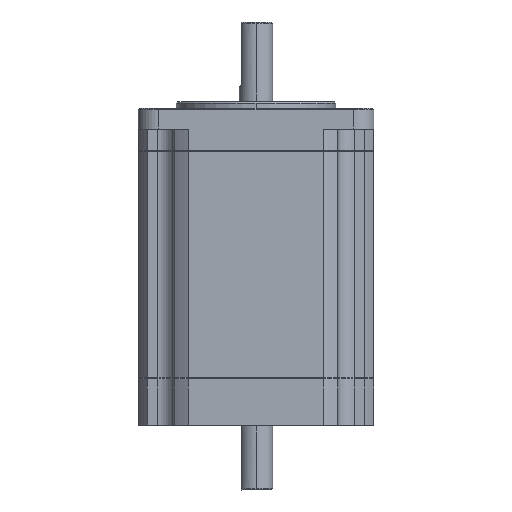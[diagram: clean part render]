
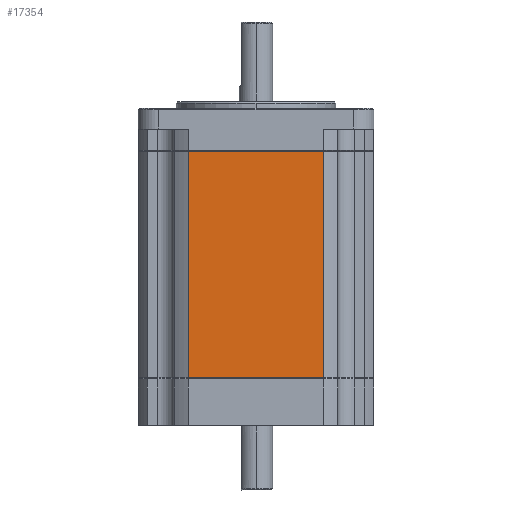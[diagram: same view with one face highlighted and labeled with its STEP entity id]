
A CAD part, front view. The second image highlights one B-rep face of the part: STEP entity #17354.
In plain terms, the highlighted planar face has unit normal (0, -1, 0).
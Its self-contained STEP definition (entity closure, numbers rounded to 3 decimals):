
#227 = EDGE_CURVE ( 'NONE', #10272, #16814, #14254, .T. ) ;
#463 = CARTESIAN_POINT ( 'NONE',  ( -16.156, -28.2, 0. ) ) ;
#914 = DIRECTION ( 'NONE',  ( 0., -1., 0. ) ) ;
#1001 = CARTESIAN_POINT ( 'NONE',  ( -16.156, -28.2, -54.05 ) ) ;
#1031 = ORIENTED_EDGE ( 'NONE', *, *, #15469, .T. ) ;
#2078 = DIRECTION ( 'NONE',  ( -1., 0., 0. ) ) ;
#2664 = LINE ( 'NONE', #4025, #12257 ) ;
#2678 = ORIENTED_EDGE ( 'NONE', *, *, #227, .F. ) ;
#2786 = CARTESIAN_POINT ( 'NONE',  ( 0., -28.2, -54.05 ) ) ;
#4025 = CARTESIAN_POINT ( 'NONE',  ( -16.156, -28.2, -54.05 ) ) ;
#4129 = DIRECTION ( 'NONE',  ( 1., 0., 0. ) ) ;
#5270 = PLANE ( 'NONE',  #10479 ) ;
#6036 = EDGE_LOOP ( 'NONE', ( #14426, #2678, #1031, #12165 ) ) ;
#6176 = CARTESIAN_POINT ( 'NONE',  ( -16.156, -28.2, 0. ) ) ;
#6239 = EDGE_CURVE ( 'NONE', #13105, #16814, #12366, .T. ) ;
#7196 = VECTOR ( 'NONE', #4129, 1000. ) ;
#7801 = LINE ( 'NONE', #6176, #7932 ) ;
#7883 = CARTESIAN_POINT ( 'NONE',  ( -16.156, -28.2, -54.05 ) ) ;
#7932 = VECTOR ( 'NONE', #2078, 1000. ) ;
#9082 = VECTOR ( 'NONE', #13976, 1000. ) ;
#10272 = VERTEX_POINT ( 'NONE', #12085 ) ;
#10479 = AXIS2_PLACEMENT_3D ( 'NONE', #1001, #914, #13314 ) ;
#10712 = EDGE_CURVE ( 'NONE', #11445, #13105, #2664, .T. ) ;
#11445 = VERTEX_POINT ( 'NONE', #463 ) ;
#11799 = CARTESIAN_POINT ( 'NONE',  ( 16.156, -28.2, -54.05 ) ) ;
#11952 = FACE_OUTER_BOUND ( 'NONE', #6036, .T. ) ;
#12085 = CARTESIAN_POINT ( 'NONE',  ( 16.156, -28.2, 0. ) ) ;
#12165 = ORIENTED_EDGE ( 'NONE', *, *, #10712, .T. ) ;
#12257 = VECTOR ( 'NONE', #16604, 1000. ) ;
#12366 = LINE ( 'NONE', #2786, #7196 ) ;
#13105 = VERTEX_POINT ( 'NONE', #7883 ) ;
#13314 = DIRECTION ( 'NONE',  ( 0., 0., -1. ) ) ;
#13976 = DIRECTION ( 'NONE',  ( 0., 0., -1. ) ) ;
#14254 = LINE ( 'NONE', #16985, #9082 ) ;
#14426 = ORIENTED_EDGE ( 'NONE', *, *, #6239, .T. ) ;
#15469 = EDGE_CURVE ( 'NONE', #10272, #11445, #7801, .T. ) ;
#16604 = DIRECTION ( 'NONE',  ( 0., 0., -1. ) ) ;
#16814 = VERTEX_POINT ( 'NONE', #11799 ) ;
#16985 = CARTESIAN_POINT ( 'NONE',  ( 16.156, -28.2, -54.05 ) ) ;
#17354 = ADVANCED_FACE ( 'NONE', ( #11952 ), #5270, .T. ) ;
